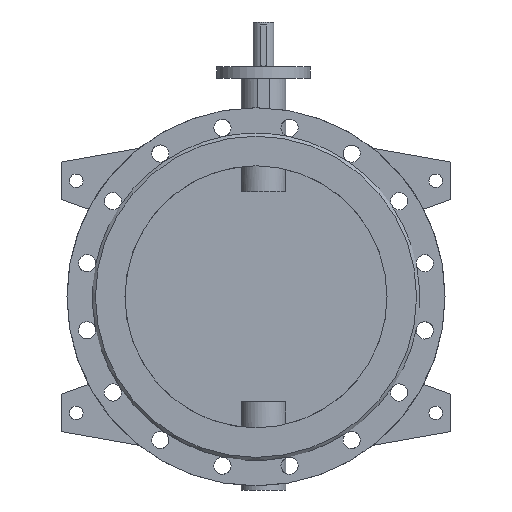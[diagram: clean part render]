
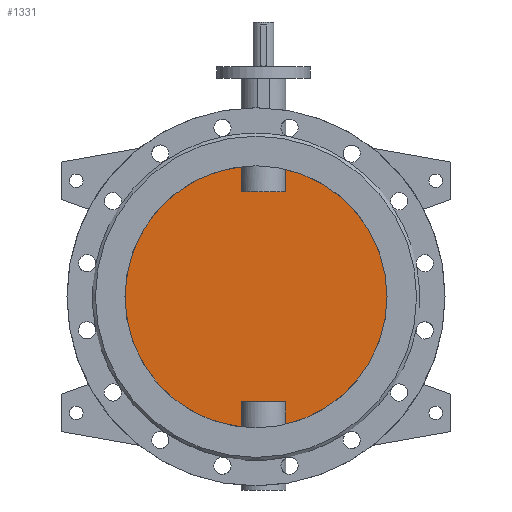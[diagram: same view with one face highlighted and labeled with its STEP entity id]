
A CAD part, front view. The second image highlights one B-rep face of the part: STEP entity #1331.
In plain terms, the highlighted planar face has unit normal (0, -1, 0).
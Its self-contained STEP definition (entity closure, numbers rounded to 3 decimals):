
#1331=ADVANCED_FACE('',(#2781),#2783,.F.);
#2781=FACE_BOUND('',#2782,.T.);
#2782=EDGE_LOOP('',(#3689,#3690,#3691,#3692,#3693,#3694,#3695,#3696));
#2783=PLANE('',#2784);
#2784=AXIS2_PLACEMENT_3D('',#2785,#2786,#2787);
#2785=CARTESIAN_POINT('',(0.,-5.,0.));
#2786=DIRECTION('',(0.,1.,0.));
#2787=DIRECTION('',(1.,0.,0.));
#3689=ORIENTED_EDGE('',*,*,#4143,.T.);
#3690=ORIENTED_EDGE('',*,*,#4159,.T.);
#3691=ORIENTED_EDGE('',*,*,#4160,.T.);
#3692=ORIENTED_EDGE('',*,*,#4161,.T.);
#3693=ORIENTED_EDGE('',*,*,#4145,.T.);
#3694=ORIENTED_EDGE('',*,*,#4162,.T.);
#3695=ORIENTED_EDGE('',*,*,#4163,.T.);
#3696=ORIENTED_EDGE('',*,*,#4164,.T.);
#4143=EDGE_CURVE('',#4859,#4860,#4861,.F.);
#4145=EDGE_CURVE('',#4864,#4862,#4865,.F.);
#4159=EDGE_CURVE('',#4860,#4891,#4892,.T.);
#4160=EDGE_CURVE('',#4891,#4893,#4894,.F.);
#4161=EDGE_CURVE('',#4893,#4864,#4895,.F.);
#4162=EDGE_CURVE('',#4862,#4896,#4897,.F.);
#4163=EDGE_CURVE('',#4896,#4898,#4899,.F.);
#4164=EDGE_CURVE('',#4898,#4859,#4900,.T.);
#4859=VERTEX_POINT('',#7360);
#4860=VERTEX_POINT('',#7361);
#4861=CIRCLE('',#7362,175.);
#4862=VERTEX_POINT('',#7366);
#4864=VERTEX_POINT('',#7469);
#4865=CIRCLE('',#7470,175.);
#4891=VERTEX_POINT('',#7855);
#4892=LINE('',#7856,#7857);
#4893=VERTEX_POINT('',#7859);
#4894=LINE('',#7860,#7861);
#4895=LINE('',#7863,#7864);
#4896=VERTEX_POINT('',#7866);
#4897=LINE('',#7867,#7868);
#4898=VERTEX_POINT('',#7870);
#4899=LINE('',#7871,#7872);
#4900=LINE('',#7874,#7875);
#7360=CARTESIAN_POINT('',(39.58,-5.,-170.465));
#7361=CARTESIAN_POINT('',(39.58,-5.,170.465));
#7362=AXIS2_PLACEMENT_3D('',#7363,#7364,#7365);
#7363=CARTESIAN_POINT('',(0.,-5.,0.));
#7364=DIRECTION('',(0.,1.,0.));
#7365=DIRECTION('',(0.226,0.,0.974));
#7366=CARTESIAN_POINT('',(-19.58,-5.,-173.901));
#7469=CARTESIAN_POINT('',(-19.58,-5.,173.901));
#7470=AXIS2_PLACEMENT_3D('',#7471,#7472,#7473);
#7471=CARTESIAN_POINT('',(0.,-5.,0.));
#7472=DIRECTION('',(0.,1.,0.));
#7473=DIRECTION('',(-0.112,0.,-0.994));
#7855=CARTESIAN_POINT('',(39.58,-5.,140.));
#7856=CARTESIAN_POINT('',(39.58,-5.,170.465));
#7857=VECTOR('',#7858,1.);
#7858=DIRECTION('',(0.,0.,-1.));
#7859=CARTESIAN_POINT('',(-19.58,-5.,140.));
#7860=CARTESIAN_POINT('',(-19.58,-5.,140.));
#7861=VECTOR('',#7862,1.);
#7862=DIRECTION('',(1.,0.,0.));
#7863=CARTESIAN_POINT('',(-19.58,-5.,173.901));
#7864=VECTOR('',#7865,1.);
#7865=DIRECTION('',(0.,0.,-1.));
#7866=CARTESIAN_POINT('',(-19.58,-5.,-140.));
#7867=CARTESIAN_POINT('',(-19.58,-5.,-140.));
#7868=VECTOR('',#7869,1.);
#7869=DIRECTION('',(0.,0.,-1.));
#7870=CARTESIAN_POINT('',(39.58,-5.,-140.));
#7871=CARTESIAN_POINT('',(39.58,-5.,-140.));
#7872=VECTOR('',#7873,1.);
#7873=DIRECTION('',(-1.,0.,0.));
#7874=CARTESIAN_POINT('',(39.58,-5.,-140.));
#7875=VECTOR('',#7876,1.);
#7876=DIRECTION('',(0.,0.,-1.));
